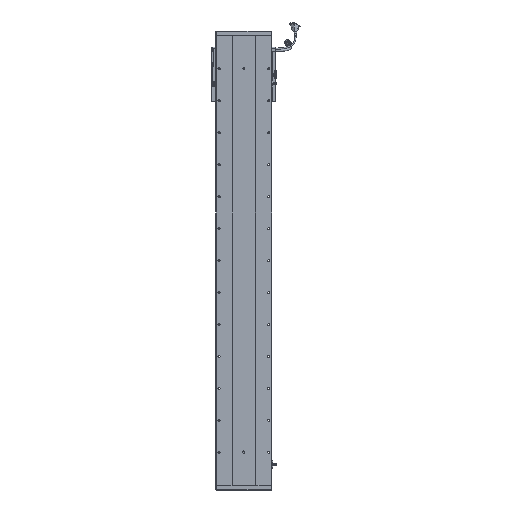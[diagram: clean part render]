
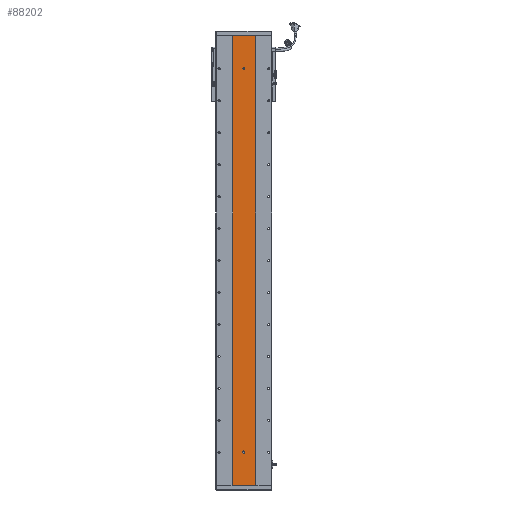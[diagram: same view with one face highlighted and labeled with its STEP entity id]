
A CAD part, front view. The second image highlights one B-rep face of the part: STEP entity #88202.
In plain terms, the highlighted planar face has unit normal (0, -1, 0).
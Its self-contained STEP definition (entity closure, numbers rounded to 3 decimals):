
#784 = CARTESIAN_POINT ( 'NONE',  ( 3277.529, 1415.701, 105. ) ) ;
#836 = DIRECTION ( 'NONE',  ( 0., 0., 1. ) ) ;
#875 = VERTEX_POINT ( 'NONE', #40954 ) ;
#1152 = DIRECTION ( 'NONE',  ( 0., 1., 0. ) ) ;
#2938 = VERTEX_POINT ( 'NONE', #51927 ) ;
#3332 = VERTEX_POINT ( 'NONE', #3825 ) ;
#3662 = VECTOR ( 'NONE', #34568, 1000. ) ;
#3825 = CARTESIAN_POINT ( 'NONE',  ( 3244.748, 1415.701, 0. ) ) ;
#5146 = VECTOR ( 'NONE', #12392, 1000. ) ;
#5202 = ORIENTED_EDGE ( 'NONE', *, *, #92777, .F. ) ;
#5370 = DIRECTION ( 'NONE',  ( 0., -1., 0. ) ) ;
#5385 = ORIENTED_EDGE ( 'NONE', *, *, #18827, .T. ) ;
#5748 = VERTEX_POINT ( 'NONE', #55083 ) ;
#5793 = CIRCLE ( 'NONE', #41155, 3. ) ;
#7983 = ORIENTED_EDGE ( 'NONE', *, *, #79655, .F. ) ;
#8103 = CARTESIAN_POINT ( 'NONE',  ( 3244.748, 1415.701, 1407. ) ) ;
#9324 = VERTEX_POINT ( 'NONE', #48414 ) ;
#9881 = FACE_OUTER_BOUND ( 'NONE', #54667, .T. ) ;
#10724 = EDGE_CURVE ( 'NONE', #74103, #19950, #87160, .T. ) ;
#12392 = DIRECTION ( 'NONE',  ( 0., 0., -1. ) ) ;
#12944 = EDGE_CURVE ( 'NONE', #78095, #93815, #84530, .T. ) ;
#13297 = CARTESIAN_POINT ( 'NONE',  ( 3316.311, 1415.701, 1407. ) ) ;
#13551 = EDGE_CURVE ( 'NONE', #2938, #875, #31337, .T. ) ;
#14469 = DIRECTION ( 'NONE',  ( 0., 0., -1. ) ) ;
#15586 = DIRECTION ( 'NONE',  ( 0., 0., -1. ) ) ;
#17280 = CARTESIAN_POINT ( 'NONE',  ( 3277.529, 1415.701, 105. ) ) ;
#17868 = AXIS2_PLACEMENT_3D ( 'NONE', #63207, #60613, #55403 ) ;
#18827 = EDGE_CURVE ( 'NONE', #88246, #3332, #55127, .T. ) ;
#19950 = VERTEX_POINT ( 'NONE', #33369 ) ;
#20124 = EDGE_LOOP ( 'NONE', ( #7983, #90251, #37407, #75721, #56934 ) ) ;
#23162 = EDGE_LOOP ( 'NONE', ( #39405, #5202 ) ) ;
#23378 = DIRECTION ( 'NONE',  ( 0., 0., -1. ) ) ;
#23561 = CARTESIAN_POINT ( 'NONE',  ( 3316.311, 1415.701, 0. ) ) ;
#28246 = DIRECTION ( 'NONE',  ( 0., 0., -1. ) ) ;
#29922 = ORIENTED_EDGE ( 'NONE', *, *, #12944, .F. ) ;
#30282 = EDGE_CURVE ( 'NONE', #9324, #74103, #83775, .T. ) ;
#31147 = AXIS2_PLACEMENT_3D ( 'NONE', #95655, #57848, #14469 ) ;
#31337 = CIRCLE ( 'NONE', #59517, 3. ) ;
#31685 = EDGE_CURVE ( 'NONE', #88246, #78095, #85826, .T. ) ;
#32585 = VERTEX_POINT ( 'NONE', #66284 ) ;
#33369 = CARTESIAN_POINT ( 'NONE',  ( 3277.529, 1415.701, 102. ) ) ;
#34568 = DIRECTION ( 'NONE',  ( 0., 0., -1. ) ) ;
#34641 = CARTESIAN_POINT ( 'NONE',  ( 3316.311, 1415.701, 1407. ) ) ;
#34696 = CIRCLE ( 'NONE', #17868, 3. ) ;
#37407 = ORIENTED_EDGE ( 'NONE', *, *, #30282, .F. ) ;
#38163 = PLANE ( 'NONE',  #92192 ) ;
#38267 = VECTOR ( 'NONE', #63179, 1000. ) ;
#39405 = ORIENTED_EDGE ( 'NONE', *, *, #13551, .F. ) ;
#40954 = CARTESIAN_POINT ( 'NONE',  ( 3280.529, 1415.701, 1306.5 ) ) ;
#41155 = AXIS2_PLACEMENT_3D ( 'NONE', #94706, #5370, #28246 ) ;
#41355 = CARTESIAN_POINT ( 'NONE',  ( 3244.748, 1415.701, 0. ) ) ;
#45174 = ORIENTED_EDGE ( 'NONE', *, *, #31685, .F. ) ;
#45628 = CARTESIAN_POINT ( 'NONE',  ( 3244.748, 1415.701, 1407. ) ) ;
#48414 = CARTESIAN_POINT ( 'NONE',  ( 3283.529, 1415.701, 105. ) ) ;
#49544 = CARTESIAN_POINT ( 'NONE',  ( 3283.529, 1415.701, 105. ) ) ;
#51927 = CARTESIAN_POINT ( 'NONE',  ( 3280.529, 1415.701, 1300.5 ) ) ;
#53725 = EDGE_CURVE ( 'NONE', #32585, #5748, #61853, .T. ) ;
#54037 = DIRECTION ( 'NONE',  ( 0., -1., 0. ) ) ;
#54667 = EDGE_LOOP ( 'NONE', ( #59140, #29922, #45174, #5385 ) ) ;
#55083 = CARTESIAN_POINT ( 'NONE',  ( 3283.529, 1415.701, 102. ) ) ;
#55127 = LINE ( 'NONE', #85709, #3662 ) ;
#55403 = DIRECTION ( 'NONE',  ( 0., 0., -1. ) ) ;
#56934 = ORIENTED_EDGE ( 'NONE', *, *, #53725, .F. ) ;
#57848 = DIRECTION ( 'NONE',  ( 0., -1., 0. ) ) ;
#58968 = DIRECTION ( 'NONE',  ( 1., 0., 0. ) ) ;
#59140 = ORIENTED_EDGE ( 'NONE', *, *, #81119, .T. ) ;
#59517 = AXIS2_PLACEMENT_3D ( 'NONE', #79451, #85973, #70679 ) ;
#60613 = DIRECTION ( 'NONE',  ( 0., -1., 0. ) ) ;
#61853 = CIRCLE ( 'NONE', #31147, 3. ) ;
#63179 = DIRECTION ( 'NONE',  ( 1., 0., 0. ) ) ;
#63207 = CARTESIAN_POINT ( 'NONE',  ( 3280.529, 1415.701, 1303.5 ) ) ;
#65617 = LINE ( 'NONE', #49544, #87754 ) ;
#66284 = CARTESIAN_POINT ( 'NONE',  ( 3280.529, 1415.701, 99. ) ) ;
#68711 = CARTESIAN_POINT ( 'NONE',  ( 3280.529, 1415.701, 105. ) ) ;
#70679 = DIRECTION ( 'NONE',  ( 0., 0., -1. ) ) ;
#71695 = DIRECTION ( 'NONE',  ( 0., 0., 1. ) ) ;
#74095 = FACE_BOUND ( 'NONE', #23162, .T. ) ;
#74103 = VERTEX_POINT ( 'NONE', #17280 ) ;
#75721 = ORIENTED_EDGE ( 'NONE', *, *, #77941, .F. ) ;
#77603 = AXIS2_PLACEMENT_3D ( 'NONE', #68711, #54037, #15586 ) ;
#77941 = EDGE_CURVE ( 'NONE', #5748, #9324, #65617, .T. ) ;
#78095 = VERTEX_POINT ( 'NONE', #13297 ) ;
#79451 = CARTESIAN_POINT ( 'NONE',  ( 3280.529, 1415.701, 1303.5 ) ) ;
#79655 = EDGE_CURVE ( 'NONE', #19950, #32585, #5793, .T. ) ;
#81119 = EDGE_CURVE ( 'NONE', #3332, #93815, #87214, .T. ) ;
#81460 = CARTESIAN_POINT ( 'NONE',  ( 3244.748, 1415.701, 1407. ) ) ;
#83775 = CIRCLE ( 'NONE', #77603, 3. ) ;
#84530 = LINE ( 'NONE', #34641, #5146 ) ;
#85709 = CARTESIAN_POINT ( 'NONE',  ( 3244.748, 1415.701, 1407. ) ) ;
#85826 = LINE ( 'NONE', #81460, #92807 ) ;
#85973 = DIRECTION ( 'NONE',  ( 0., -1., 0. ) ) ;
#87160 = LINE ( 'NONE', #784, #95286 ) ;
#87214 = LINE ( 'NONE', #41355, #38267 ) ;
#87754 = VECTOR ( 'NONE', #71695, 1000. ) ;
#88202 = ADVANCED_FACE ( 'NONE', ( #93896, #74095, #9881 ), #38163, .F. ) ;
#88246 = VERTEX_POINT ( 'NONE', #8103 ) ;
#90251 = ORIENTED_EDGE ( 'NONE', *, *, #10724, .F. ) ;
#92192 = AXIS2_PLACEMENT_3D ( 'NONE', #45628, #1152, #836 ) ;
#92777 = EDGE_CURVE ( 'NONE', #875, #2938, #34696, .T. ) ;
#92807 = VECTOR ( 'NONE', #58968, 1000. ) ;
#93815 = VERTEX_POINT ( 'NONE', #23561 ) ;
#93896 = FACE_BOUND ( 'NONE', #20124, .T. ) ;
#94706 = CARTESIAN_POINT ( 'NONE',  ( 3280.529, 1415.701, 102. ) ) ;
#95286 = VECTOR ( 'NONE', #23378, 1000. ) ;
#95655 = CARTESIAN_POINT ( 'NONE',  ( 3280.529, 1415.701, 102. ) ) ;
